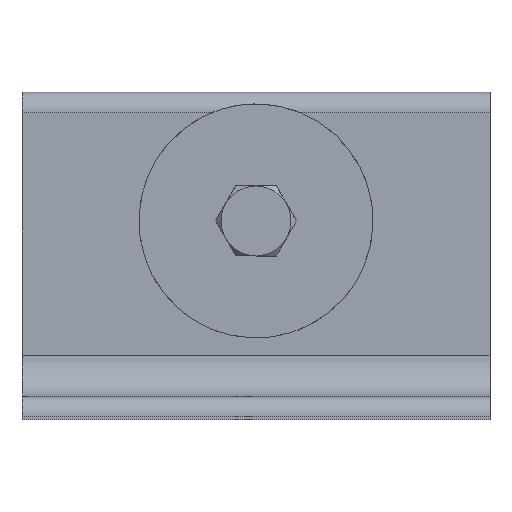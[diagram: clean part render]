
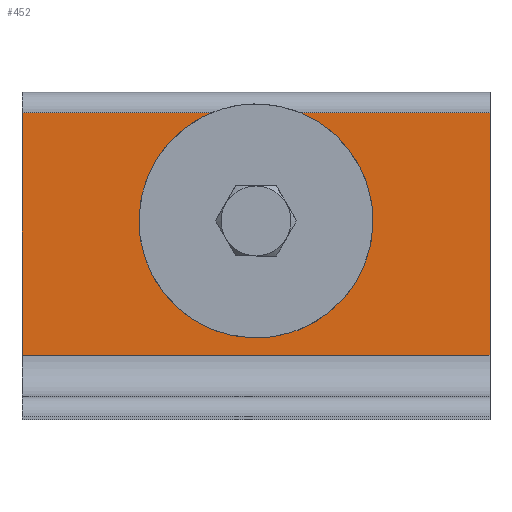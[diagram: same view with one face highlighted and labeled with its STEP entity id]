
A CAD part, front view. The second image highlights one B-rep face of the part: STEP entity #452.
In plain terms, the highlighted planar face has unit normal (0, -1, 0) as drawn and (1, 0, 0) by its records, which use the part's own axes.
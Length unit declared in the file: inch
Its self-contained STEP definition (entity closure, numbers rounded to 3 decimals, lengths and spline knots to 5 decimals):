
#354=CARTESIAN_POINT('',(0.25,2.125,1.60937));
#355=VERTEX_POINT('',#354);
#356=CARTESIAN_POINT('',(0.25,2.125,2.5));
#357=DIRECTION('',(-1.0,0.0,0.0));
#358=DIRECTION('',(0.0,0.0,1.0));
#359=AXIS2_PLACEMENT_3D('',#356,#357,#358);
#360=CIRCLE('',#359,0.89063);
#361=EDGE_CURVE('',#355,#355,#360,.T.);
#384=CARTESIAN_POINT('',(0.25,3.28,5.0));
#385=VERTEX_POINT('',#384);
#393=CARTESIAN_POINT('',(0.25,3.28,0.0));
#394=VERTEX_POINT('',#393);
#395=CARTESIAN_POINT('',(0.25,3.28,0.0));
#396=DIRECTION('',(0.0,0.0,1.0));
#397=VECTOR('',#396,5.0);
#398=LINE('',#395,#397);
#399=EDGE_CURVE('',#394,#385,#398,.T.);
#419=CARTESIAN_POINT('',(0.25,3.28,0.0));
#420=DIRECTION('',(1.0,0.0,0.0));
#421=DIRECTION('',(0.0,0.0,-1.0));
#422=AXIS2_PLACEMENT_3D('',#419,#420,#421);
#423=PLANE('',#422);
#424=CARTESIAN_POINT('',(0.25,0.69,5.0));
#425=VERTEX_POINT('',#424);
#426=CARTESIAN_POINT('',(0.25,3.28,5.0));
#427=DIRECTION('',(0.0,-1.0,0.0));
#428=VECTOR('',#427,2.59);
#429=LINE('',#426,#428);
#430=EDGE_CURVE('',#385,#425,#429,.T.);
#431=ORIENTED_EDGE('',*,*,#430,.T.);
#432=CARTESIAN_POINT('',(0.25,0.69,0.0));
#433=VERTEX_POINT('',#432);
#434=CARTESIAN_POINT('',(0.25,0.69,0.0));
#435=DIRECTION('',(0.0,0.0,1.0));
#436=VECTOR('',#435,5.0);
#437=LINE('',#434,#436);
#438=EDGE_CURVE('',#433,#425,#437,.T.);
#439=ORIENTED_EDGE('',*,*,#438,.F.);
#440=CARTESIAN_POINT('',(0.25,3.28,0.0));
#441=DIRECTION('',(0.0,-1.0,0.0));
#442=VECTOR('',#441,2.59);
#443=LINE('',#440,#442);
#444=EDGE_CURVE('',#394,#433,#443,.T.);
#445=ORIENTED_EDGE('',*,*,#444,.F.);
#446=ORIENTED_EDGE('',*,*,#399,.T.);
#447=EDGE_LOOP('',(#431,#439,#445,#446));
#448=FACE_OUTER_BOUND('',#447,.T.);
#449=ORIENTED_EDGE('',*,*,#361,.T.);
#450=EDGE_LOOP('',(#449));
#451=FACE_BOUND('',#450,.T.);
#452=ADVANCED_FACE('',(#448,#451),#423,.T.);
